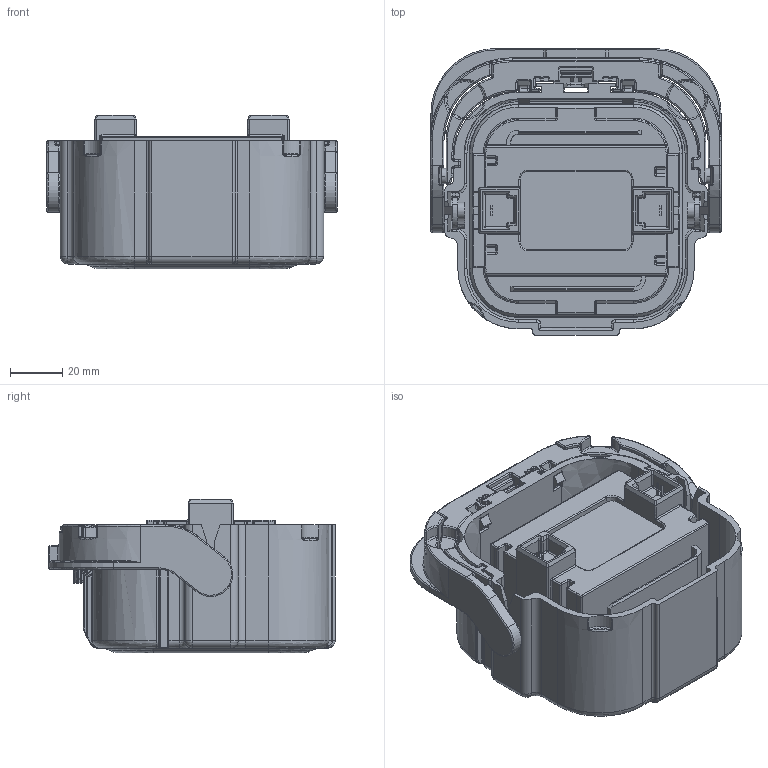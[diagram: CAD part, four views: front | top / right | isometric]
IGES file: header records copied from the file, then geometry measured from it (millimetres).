
Start section:  PTC IGES file: c-2103212-8-e-3d.igs
Global section: file name: c-2103212-8-e-3d.igs; native system: Creo Parametric by PTC Inc.; preprocessor: 2015200; author: workeradm; organization: Unknown; units: millimetre
Bounding box: 111.2 x 109.9 x 58.85 mm (x, y, z)
Surface area: 87114.9 mm2 (no closed solid volume)
Topology: 0 solids, 0 shells, 1895 faces, 9132 edges, 9132 vertices
Faces by surface type: revolution 1240, bspline 647, extrusion 8
